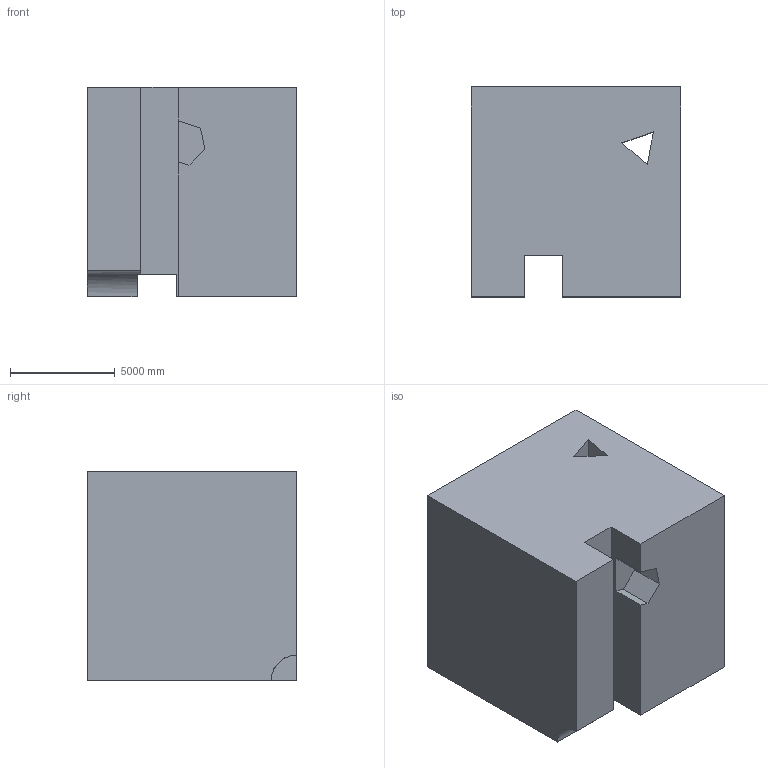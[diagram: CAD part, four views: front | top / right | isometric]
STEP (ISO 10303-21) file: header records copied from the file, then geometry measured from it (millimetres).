
FILE_DESCRIPTION (( 'STEP AP203' ), '1' );
FILE_NAME ('1679.STEP', '2022-08-25T15:26:18', ( 'user' ), ( '' ), 'SwSTEP 2.0', 'SolidWorks 2021', '' );
FILE_SCHEMA (( 'CONFIG_CONTROL_DESIGN' ));
Length unit declared in the file: centimetre
Products named in the file (1): 1679
Bounding box: 10000 x 10000 x 10000 mm (x, y, z)
Volume: 892515138344.1 mm3; surface area: 718740914.4 mm2
Topology: 1 solids, 1 shells, 31 faces, 87 edges, 58 vertices
Faces by surface type: plane 30, cylinder 1
Entity records: 1065 total; most frequent: CARTESIAN_POINT 177, ORIENTED_EDGE 174, DIRECTION 154, EDGE_CURVE 87, LINE 84, VECTOR 84, VERTEX_POINT 58, AXIS2_PLACEMENT_3D 35
